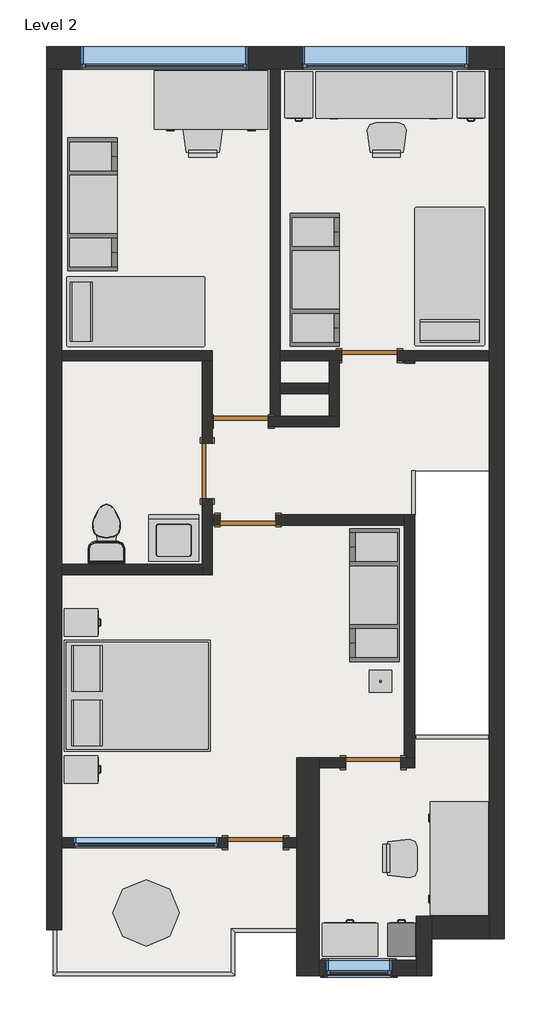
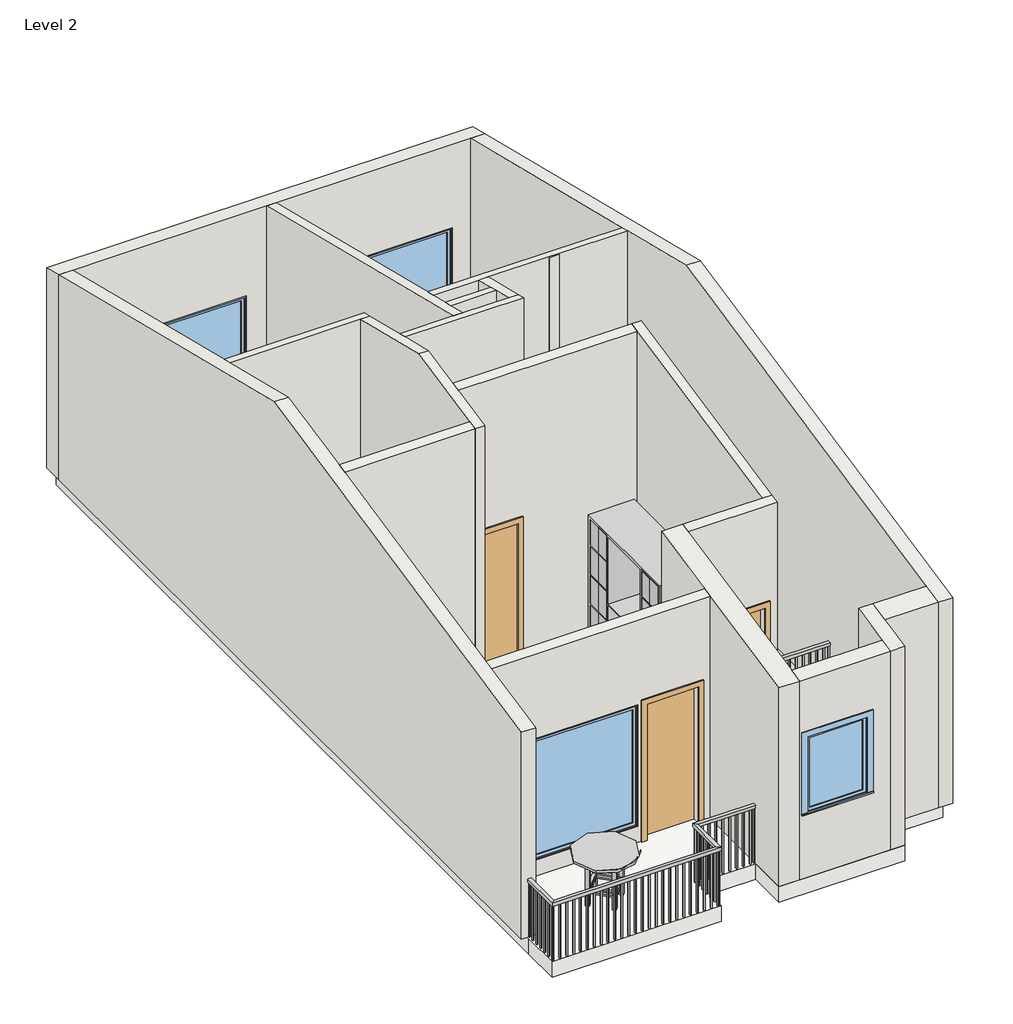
# One storey, incomplete: 20 walls, 19 furniture elements, 6 doors, 4 windows, 3 railings, 3 slabs, 1 flow terminal, 1 light fixture, 1 proxy.
"""IFC4 building model written with IfcOpenShell, lengths in millimetres."""

from ifc_helpers import new_model, si_unit, frame, origin, place, context, project, spatial, polyline, outline, extrude, faceted_brep, transform, mapped, element, save
from components import proxy_718fa39f, door_d876b020, door_1a0a1737, door_cd3018f3, toilet_domestic_3d_toilet_domestic_3d_f7549cf7, toilet_domestic_3d_toilet_domestic_3d_183bbd19, furniture_fb3a1094, furniture_a07fae8b, furniture_bb55ed6b, furniture_d2095e5a, furniture_91e73996, furniture_d4d3357e, chair_desk_chair_desk_ccc35c8f, furniture_7b927048, furniture_013ab306, furniture_cf0b6580, furniture_f004630c, light_fixture_100w_120v_8564026f, handrail_rectangular_d451aaf2, handrail_rectangular_334663b3, handrail_rectangular_6fb7977d, window_4fdf5a1b, fixed_d05abae4, window_746a537f

model = new_model("IFC4")

# Units and contexts
model_context = context("Model", 3, world=origin())
ifc_project = project(units=[si_unit("LENGTHUNIT", "METRE", prefix="MILLI")], contexts=[model_context])

# Site, building, storey
site = spatial("IfcSite", under=ifc_project)
building = spatial("IfcBuilding", under=site)
storey = spatial("IfcBuildingStorey", under=building, Name="Level 2", Elevation=3000.0)

# Proxy
placement = place(None, origin())
proxy_shape = proxy_718fa39f(model_context)
element("IfcBuildingElementProxy", 1, Name="Washer : 27\" x 25\" x 35\"", ObjectType="Washer : 27\" x 25\" x 35\"", at=placement, inside=storey, context=model_context, shape_type="MappedRepresentation", body=[
    mapped(proxy_shape, transform((-14962.6615685, 8412.0298259, 3000.0), x_axis=(1.0, 0.0, 0.0), y_axis=(0.0, 1.0, 0.0), z_axis=(0.0, 0.0, 1.0))),
])

# Doors
door_shape = door_d876b020(model_context)
element("IfcDoor", 2, ObjectType="Single-Flush : 30\" x 80\"", at=placement, inside=storey, context=model_context, shape_type="MappedRepresentation", body=[
    mapped(door_shape, transform((-13618.9909741, 10293.5806053, 3000.0), x_axis=(1.0, 0.0, 0.0), y_axis=(0.0, 1.0, 0.0), z_axis=(0.0, 0.0, 1.0))),
])
element("IfcDoor", 3, ObjectType="Single-Flush : 30\" x 80\"", at=placement, inside=storey, context=model_context, shape_type="MappedRepresentation", body=[
    mapped(door_shape, transform((-13521.4909741, 8938.6793907, 3000.0), x_axis=(-1.0, 0.0, 0.0), y_axis=(0.0, -1.0, 0.0), z_axis=(0.0, 0.0, 1.0))),
])
door_2_shape = door_1a0a1737(model_context)
element("IfcDoor", 4, ObjectType="Single-Flush : 30\" x 80\"", at=placement, inside=storey, context=model_context, shape_type="MappedRepresentation", body=[
    mapped(door_2_shape, transform((-11848.9909741, 11198.6793907, 3000.0), x_axis=(-1.0, 0.0, 0.0), y_axis=(0.0, -1.0, 0.0), z_axis=(0.0, 0.0, 1.0))),
])
element("IfcDoor", 5, ObjectType="Single-Flush : 30\" x 80\"", at=placement, inside=storey, context=model_context, shape_type="MappedRepresentation", body=[
    mapped(door_2_shape, transform((-14081.4909741, 9611.129998, 3000.0), x_axis=(0.0, -1.0, 0.0), y_axis=(1.0, 0.0, 0.0), z_axis=(0.0, 0.0, 1.0))),
])
door_3_shape = door_cd3018f3(model_context)
element("IfcDoor", 6, ObjectType="Single-Flush : 30\" x 84\"", at=placement, inside=storey, context=model_context, shape_type="MappedRepresentation", body=[
    mapped(door_3_shape, transform((-11796.4909741, 5598.6793907, 3000.0), x_axis=(1.0, 0.0, 0.0), y_axis=(0.0, 1.0, 0.0), z_axis=(0.0, 0.0, 1.0))),
])
element("IfcDoor", 7, ObjectType="Single-Flush : 30\" x 84\"", at=placement, inside=storey, context=model_context, shape_type="MappedRepresentation", body=[
    mapped(door_3_shape, transform((-13414.8909741, 4498.6793907, 3000.0), x_axis=(1.0, 0.0, 0.0), y_axis=(0.0, 1.0, 0.0), z_axis=(0.0, 0.0, 1.0))),
])

# Flow terminal
toilet_domestic_3d_toilet_domestic_3d_shape = toilet_domestic_3d_toilet_domestic_3d_f7549cf7(model_context)
toilet_domestic_3d_toilet_domestic_3d_2_shape = toilet_domestic_3d_toilet_domestic_3d_183bbd19(model_context)
element("IfcFlowTerminal", 8, ObjectType="Toilet-Domestic-3D : Toilet-Domestic-3D", at=placement, inside=storey, context=model_context, shape_type="MappedRepresentation", body=[
    mapped(toilet_domestic_3d_toilet_domestic_3d_shape, transform((-15466.4909741, 8848.6793907, 3000.0), x_axis=(-1.0, 0.0, 0.0), y_axis=(0.0, -1.0, 0.0), z_axis=(0.0, 0.0, 1.0))),
    mapped(toilet_domestic_3d_toilet_domestic_3d_2_shape, transform((-15466.4909741, 8848.6793907, 3000.0), x_axis=(-1.0, 0.0, 0.0), y_axis=(0.0, -1.0, 0.0), z_axis=(0.0, 0.0, 1.0))),
])

# Furniture
furniture_shape = furniture_fb3a1094(model_context)
element("IfcFurniture", 9, ObjectType="Bed-Box : Queen 60\" x 79\"", at=placement, inside=storey, context=model_context, shape_type="MappedRepresentation", body=[
    mapped(furniture_shape, transform((-15277.6204823, 6182.5269316, 3000.0), x_axis=(0.0, 1.0, 0.0), y_axis=(-1.0, 0.0, 0.0), z_axis=(0.0, 0.0, 1.0))),
])
furniture_2_shape = furniture_a07fae8b(model_context)
element("IfcFurniture", 10, ObjectType="Bed-Standard : Twin 38\" x 75\"", at=placement, inside=storey, context=model_context, shape_type="MappedRepresentation", body=[
    mapped(furniture_2_shape, transform((-15109.5860561, 11534.5908661, 3000.0), x_axis=(0.0, 1.0, 0.0), y_axis=(-1.0, 0.0, 0.0), z_axis=(0.0, 0.0, 1.0))),
])
element("IfcFurniture", 11, ObjectType="Bed-Standard : Twin 38\" x 75\"", at=placement, inside=storey, context=model_context, shape_type="MappedRepresentation", body=[
    mapped(furniture_2_shape, transform((-10472.4024495, 12243.0843087, 3000.0), x_axis=(-1.0, 0.0, 0.0), y_axis=(0.0, -1.0, 0.0), z_axis=(0.0, 0.0, 1.0))),
])
furniture_3_shape = furniture_bb55ed6b(model_context)
element("IfcFurniture", 12, ObjectType="Cabinet-File 2 Drawer : 15\" x 18\"", at=placement, inside=storey, context=model_context, shape_type="MappedRepresentation", body=[
    mapped(furniture_3_shape, transform((-15960.0252743, 7656.0758377, 3000.0), x_axis=(0.0, 1.0, 0.0), y_axis=(-1.0, 0.0, 0.0), z_axis=(0.0, 0.0, 1.0))),
])
element("IfcFurniture", 13, ObjectType="Cabinet-File 2 Drawer : 15\" x 18\"", at=placement, inside=storey, context=model_context, shape_type="MappedRepresentation", body=[
    mapped(furniture_3_shape, transform((-15960.0252743, 5636.0758377, 3000.0), x_axis=(0.0, 1.0, 0.0), y_axis=(-1.0, 0.0, 0.0), z_axis=(0.0, 0.0, 1.0))),
])
furniture_4_shape = furniture_d2095e5a(model_context)
element("IfcFurniture", 14, ObjectType="Cabinet-File 3 Drawer : 15\" x 25\"", at=placement, inside=storey, context=model_context, shape_type="MappedRepresentation", body=[
    mapped(furniture_4_shape, transform((-12694.0945271, 14933.3136908, 3000.0), x_axis=(1.0, 0.0, 0.0), y_axis=(0.0, 1.0, 0.0), z_axis=(0.0, 0.0, 1.0))),
])
element("IfcFurniture", 15, ObjectType="Cabinet-File 3 Drawer : 15\" x 25\"", at=placement, inside=storey, context=model_context, shape_type="MappedRepresentation", body=[
    mapped(furniture_4_shape, transform((-10324.0945271, 14933.3136908, 3000.0), x_axis=(1.0, 0.0, 0.0), y_axis=(0.0, 1.0, 0.0), z_axis=(0.0, 0.0, 1.0))),
])
furniture_5_shape = furniture_91e73996(model_context)
element("IfcFurniture", 16, ObjectType="Cabinet-File 3 Drawer : 30\" x 18\" Lat.", at=placement, inside=storey, context=model_context, shape_type="MappedRepresentation", body=[
    mapped(furniture_5_shape, transform((-12243.5977977, 3021.4054857, 3000.0), x_axis=(-1.0, 0.0, 0.0), y_axis=(0.0, -1.0, 0.0), z_axis=(0.0, 0.0, 1.0))),
])
furniture_6_shape = furniture_d4d3357e(model_context)
element("IfcFurniture", 17, ObjectType="Cabinet-File 5 Drawer : 15\" x 18\"", at=placement, inside=storey, context=model_context, shape_type="MappedRepresentation", body=[
    mapped(furniture_6_shape, transform((-11534.8233501, 3021.4054857, 3000.0), x_axis=(-1.0000000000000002, 0.0, 0.0), y_axis=(0.0, -1.0000000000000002, 0.0), z_axis=(0.0, 0.0, 1.0))),
])
chair_desk_chair_desk_shape = chair_desk_chair_desk_ccc35c8f(model_context)
element("IfcFurniture", 18, ObjectType="Chair-Desk : Chair-Desk", at=placement, inside=storey, context=model_context, shape_type="MappedRepresentation", body=[
    mapped(chair_desk_chair_desk_shape, transform((-11596.4909741, 4281.6793907, 3000.0), x_axis=(0.0, -1.0, 0.0), y_axis=(1.0, 0.0, 0.0), z_axis=(0.0, 0.0, 1.0))),
])
element("IfcFurniture", 19, ObjectType="Chair-Desk : Chair-Desk", at=placement, inside=storey, context=model_context, shape_type="MappedRepresentation", body=[
    mapped(chair_desk_chair_desk_shape, transform((-14140.8909741, 13998.6793907, 3000.0), x_axis=(1.0, 0.0, 0.0), y_axis=(0.0, 1.0, 0.0), z_axis=(0.0, 0.0, 1.0))),
])
element("IfcFurniture", 20, ObjectType="Chair-Desk : Chair-Desk", at=placement, inside=storey, context=model_context, shape_type="MappedRepresentation", body=[
    mapped(chair_desk_chair_desk_shape, transform((-11610.8909741, 13998.6793907, 3000.0), x_axis=(1.0, 0.0, 0.0), y_axis=(0.0, 1.0, 0.0), z_axis=(0.0, 0.0, 1.0))),
])
furniture_7_shape = furniture_7b927048(model_context)
element("IfcFurniture", 21, ObjectType="Credenza : 72\" x 24\"", at=placement, inside=storey, context=model_context, shape_type="MappedRepresentation", body=[
    mapped(furniture_7_shape, transform((-11710.4352364, 14794.2990628, 3000.0), x_axis=(1.0, 0.0, 0.0), y_axis=(0.0, 1.0, 0.0), z_axis=(0.0, 0.0, 1.0))),
])
furniture_8_shape = furniture_013ab306(model_context)
element("IfcFurniture", 22, ObjectType="Desk : 60\" x 30\"", at=placement, inside=storey, context=model_context, shape_type="MappedRepresentation", body=[
    mapped(furniture_8_shape, transform((-10991.4909741, 5043.6793907, 3000.0), x_axis=(0.0, -1.0000000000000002, 0.0), y_axis=(1.0000000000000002, 0.0, 0.0), z_axis=(0.0, 0.0, 1.0))),
])
element("IfcFurniture", 23, ObjectType="Desk : 60\" x 30\" Student", at=placement, inside=storey, context=model_context, shape_type="MappedRepresentation", body=[
    mapped(furniture_8_shape, transform((-14790.4909741, 14336.6793907, 3000.0), x_axis=(1.0, 0.0, 0.0), y_axis=(0.0, 1.0, 0.0), z_axis=(0.0, 0.0, 1.0))),
])
furniture_9_shape = furniture_cf0b6580(model_context)
element("IfcFurniture", 24, ObjectType="Entertainment Center : 72\" x 72\" x 24\"", at=placement, inside=storey, context=model_context, shape_type="MappedRepresentation", body=[
    mapped(furniture_9_shape, transform((-11335.2909741, 7904.2793907, 3000.0), x_axis=(0.0, -1.0, 0.0), y_axis=(1.0, 0.0, 0.0), z_axis=(0.0, 0.0, 1.0))),
])
element("IfcFurniture", 25, ObjectType="Entertainment Center : 72\" x 72\" x 24\"", at=placement, inside=storey, context=model_context, shape_type="MappedRepresentation", body=[
    mapped(furniture_9_shape, transform((-16103.0909741, 13283.0793907, 3000.0), x_axis=(0.0, 1.0, 0.0), y_axis=(-1.0, 0.0, 0.0), z_axis=(0.0, 0.0, 1.0))),
])
element("IfcFurniture", 26, ObjectType="Entertainment Center : 72\" x 72\" x 24\"", at=placement, inside=storey, context=model_context, shape_type="MappedRepresentation", body=[
    mapped(furniture_9_shape, transform((-13042.6909741, 12244.4996075, 3000.0), x_axis=(0.0, 1.0, 0.0), y_axis=(-1.0, 0.0, 0.0), z_axis=(0.0, 0.0, 1.0))),
])
furniture_10_shape = furniture_f004630c(model_context)
element("IfcFurniture", 27, ObjectType="Table-Dining Round w Chairs : 36\" Diameter", at=placement, inside=storey, context=model_context, shape_type="MappedRepresentation", body=[
    mapped(furniture_10_shape, transform((-14864.5863785, 3738.1990574, 3000.0), x_axis=(0.7069374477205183, -0.7072760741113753, 0.0), y_axis=(0.7072760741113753, 0.7069374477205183, 0.0), z_axis=(0.0, 0.0, 1.0))),
])

# Light fixture
light_fixture_100w_120v_shape = light_fixture_100w_120v_8564026f(model_context)
element("IfcLightFixture", 28, ObjectType="Floor Lamp - Standup : 100W - 120V", at=placement, inside=storey, context=model_context, shape_type="MappedRepresentation", body=[
    mapped(light_fixture_100w_120v_shape, transform((-11696.4909741, 6718.6793907, 3000.0), x_axis=(1.0, 0.0, 0.0), y_axis=(0.0, 1.0, 0.0), z_axis=(0.0, 0.0, 1.0))),
])

# Railings
handrail_rectangular_shape = handrail_rectangular_d451aaf2(model_context)
element("IfcRailing", 29, ObjectType="Handrail - Rectangular", at=placement, inside=storey, context=model_context, shape_type="MappedRepresentation", body=[
    mapped(handrail_rectangular_shape, transform((0.0, 0.0, 0.0), x_axis=(1.0, 0.0, 0.0), y_axis=(0.0, 1.0, 0.0), z_axis=(0.0, 0.0, 1.0))),
])
handrail_rectangular_2_shape = handrail_rectangular_334663b3(model_context)
element("IfcRailing", 30, ObjectType="Handrail - Rectangular", at=placement, inside=storey, context=model_context, shape_type="MappedRepresentation", body=[
    mapped(handrail_rectangular_2_shape, transform((0.0, 0.0, 0.0), x_axis=(1.0, 0.0, 0.0), y_axis=(0.0, 1.0, 0.0), z_axis=(0.0, 0.0, 1.0))),
])
handrail_rectangular_3_shape = handrail_rectangular_6fb7977d(model_context)
element("IfcRailing", 31, ObjectType="Handrail - Rectangular", at=placement, inside=storey, context=model_context, shape_type="MappedRepresentation", body=[
    mapped(handrail_rectangular_3_shape, transform((0.0, 0.0, 0.0), x_axis=(1.0, 0.0, 0.0), y_axis=(0.0, 1.0, 0.0), z_axis=(0.0, 0.0, 1.0))),
])

# Slabs
element("IfcSlab", 32, ObjectType="döşeme", at=placement, inside=storey, context=model_context, shape_type="SweptSolid", body=[
    extrude(outline(polyline([(-10081.4909741, 15363.6793907), (-10081.4909741, 3265.2793907), (-10991.4909741, 3265.2793907), (-10991.4909741, 2670.2793907), (-12849.8909741, 2670.2793907), (-12849.8909741, 3265.2793907), (-13701.4909741, 3265.2793907), (-13701.4909741, 2665.2793907), (-16201.4909741, 2665.2793907), (-16201.4909741, 3265.2793907), (-16201.4909741, 15363.6793907), (-10081.4909741, 15363.6793907)]), holes=[polyline([(-10201.4909741, 9608.9265679), (-11217.4909741, 9608.9265679), (-11217.4909741, 5976.7265679), (-10201.4909741, 5976.7265679), (-10201.4909741, 9608.9265679)]), polyline([(-12401.4909741, 11128.6793907), (-13076.4909741, 11128.6793907), (-13076.4909741, 10818.6793907), (-12401.4909741, 10818.6793907), (-12401.4909741, 11128.6793907)]), polyline([(-12396.4909741, 10678.6793907), (-13076.4909741, 10678.6793907), (-13076.4909741, 10368.6793907), (-12396.4909741, 10368.6793907), (-12396.4909741, 10678.6793907)])]), frame((0.0, 0.0, 2758.0), z_axis=(0.0, 0.0, 1.0), x_axis=(1.0, 0.0, 0.0)), (0.0, 0.0, 1.0), 242.0),
])
element("IfcSlab", 33, ObjectType="Generic - 12\"", at=placement, inside=storey, context=model_context, shape_type="SweptSolid", body=[
    extrude(outline(polyline([(-12401.4909741, 11128.6793907), (-12401.4909741, 10818.6793907), (-13076.4909741, 10818.6793907), (-13076.4909741, 11128.6793907), (-12401.4909741, 11128.6793907)])), frame((0.0, 0.0, 2695.2), z_axis=(0.0, 0.0, 1.0), x_axis=(1.0, 0.0, 0.0)), (0.0, 0.0, 1.0), 304.8),
    extrude(outline(polyline([(-12396.4909741, 10678.6793907), (-12396.4909741, 10368.6793907), (-13076.4909741, 10368.6793907), (-13076.4909741, 10678.6793907), (-12396.4909741, 10678.6793907)])), frame((0.0, 0.0, 2695.2), z_axis=(0.0, 0.0, 1.0), x_axis=(1.0, 0.0, 0.0)), (0.0, 0.0, 1.0), 304.8),
])
element("IfcSlab", 34, ObjectType="Generic - 12\"", at=placement, inside=storey, context=model_context, shape_type="SweptSolid", body=[
    extrude(outline(polyline([(-12396.4909741, 11128.6793907), (-12396.4909741, 10818.6793907), (-13076.4909741, 10818.6793907), (-13076.4909741, 11128.6793907), (-12396.4909741, 11128.6793907)])), frame((0.0, 0.0, 2695.2), z_axis=(0.0, 0.0, 1.0), x_axis=(1.0, 0.0, 0.0)), (0.0, 0.0, 1.0), 304.8),
])

# Walls
element("IfcWall", 35, ObjectType="içduvar", at=placement, inside=storey, context=model_context, shape_type="Brep", body=[
    faceted_brep([(-13902.4909741, 9008.6793907, 5032.0), (-13902.4909741, 9008.6793907, 3000.0), (-14011.4909741, 9008.6793907, 3000.0), (-14011.4909741, 9008.6793907, 7431.8792247), (-11366.4909741, 9008.6793907, 7431.8792247), (-11366.4909741, 9008.6793907, 3000.0), (-13140.4909741, 9008.6793907, 3000.0), (-13140.4909741, 9008.6793907, 5032.0), (-14011.4909741, 8868.6793907, 3000.0), (-13902.4909741, 8868.6793907, 3000.0), (-13902.4909741, 8868.6793907, 5032.0), (-13140.4909741, 8868.6793907, 5032.0), (-13140.4909741, 8868.6793907, 3000.0), (-11366.4909741, 8868.6793907, 3000.0), (-11366.4909741, 8868.6793907, 7402.564898), (-14011.4909741, 8868.6793907, 7402.564898)], [[[0, 1, 2, 3, 4, 5, 6, 7]], [[8, 9, 10, 11, 12, 13, 14, 15]], [[2, 1, 9, 8]], [[6, 5, 13, 12]], [[3, 2, 8, 15]], [[5, 4, 14, 13]], [[4, 3, 15, 14]], [[10, 9, 1, 0]], [[11, 10, 0, 7]], [[12, 11, 7, 6]]]),
])
element("IfcWall", 36, ObjectType="içduvar", at=placement, inside=storey, context=model_context, shape_type="SweptSolid", body=[
    extrude(outline(polyline([(8188.6793907, 3000.0), (8188.6793907, 7260.1810256), (8328.6793907, 7289.4953523), (8328.6793907, 3000.0), (8188.6793907, 3000.0)])), frame((-16081.4909741, 0.0, 0.0), z_axis=(1.0, 0.0, 0.0), x_axis=(0.0, 1.0, 0.0)), (0.0, 0.0, 1.0), 1930.0),
])
element("IfcWall", 37, ObjectType="dışduvarlar", at=placement, inside=storey, context=model_context, shape_type="Brep", body=[
    faceted_brep([(-16291.4909741, 15143.6793907, 3000.0), (-16081.4909741, 15143.6793907, 3000.0), (-13216.4909741, 15143.6793907, 3000.0), (-13076.4909741, 15143.6793907, 3000.0), (-10201.4909741, 15143.6793907, 3000.0), (-9991.4909741, 15143.6793907, 3000.0), (-9991.4909741, 15143.6793907, 6199.9737424), (-10201.4909741, 15143.6793907, 6199.9737424), (-13076.4909741, 15143.6793907, 6199.9737424), (-13216.4909741, 15143.6793907, 6199.9737424), (-16081.4909741, 15143.6793907, 6199.9737424), (-16291.4909741, 15143.6793907, 6199.9737424), (-12776.4909741, 15143.6793907, 3800.0), (-12776.4909741, 15143.6793907, 4900.0), (-10476.4909741, 15143.6793907, 4900.0), (-10476.4909741, 15143.6793907, 3800.0), (-15821.4909741, 15143.6793907, 3800.0), (-15821.4909741, 15143.6793907, 4900.0), (-13521.4909741, 15143.6793907, 4900.0), (-13521.4909741, 15143.6793907, 3800.0), (-9991.4909741, 15453.6793907, 3000.0), (-16291.4909741, 15453.6793907, 3000.0), (-16291.4909741, 15453.6793907, 6123.4405817), (-9991.4909741, 15453.6793907, 6123.4405817), (-12776.4909741, 15453.6793907, 4900.0), (-12776.4909741, 15453.6793907, 3800.0), (-10476.4909741, 15453.6793907, 3800.0), (-10476.4909741, 15453.6793907, 4900.0), (-15821.4909741, 15453.6793907, 4900.0), (-15821.4909741, 15453.6793907, 3800.0), (-13521.4909741, 15453.6793907, 3800.0), (-13521.4909741, 15453.6793907, 4900.0)], [[[0, 1, 2, 3, 4, 5, 6, 7, 8, 9, 10, 11], [12, 13, 14, 15], [16, 17, 18, 19]], [[20, 21, 22, 23], [24, 25, 26, 27], [28, 29, 30, 31]], [[5, 4, 3, 2, 1, 0, 21, 20]], [[6, 5, 20, 23]], [[0, 11, 22, 21]], [[11, 10, 9, 8, 7, 6, 23, 22]], [[25, 24, 13, 12]], [[26, 25, 12, 15]], [[27, 26, 15, 14]], [[24, 27, 14, 13]], [[28, 17, 16, 29]], [[29, 16, 19, 30]], [[30, 19, 18, 31]], [[17, 28, 31, 18]]]),
])
element("IfcWall", 38, ObjectType="dışduvarlar 2", at=placement, inside=storey, context=model_context, shape_type="Brep", body=[
    faceted_brep([(-10201.4909741, 15143.6793907, 3000.0), (-10201.4909741, 11268.6793907, 3000.0), (-10201.4909741, 11128.6793907, 3000.0), (-10201.4909741, 3485.2793907, 3000.0), (-10201.4909741, 3175.2793907, 3000.0), (-10201.4909741, 3175.2793907, 6210.4349878), (-10201.4909741, 3485.2793907, 6275.3452826), (-10201.4909741, 9628.2926549, 7561.6188363), (-10201.4909741, 11128.6793907, 7191.2016134), (-10201.4909741, 11268.6793907, 7156.6382506), (-10201.4909741, 15143.6793907, 6199.9737424), (-9991.4909741, 15143.6793907, 3000.0), (-9991.4909741, 15143.6793907, 6199.9737424), (-9991.4909741, 9628.2926549, 7561.6188363), (-9991.4909741, 3175.2793907, 6210.4349878), (-9991.4909741, 3175.2793907, 3000.0)], [[[0, 1, 2, 3, 4, 5, 6, 7, 8, 9, 10]], [[11, 12, 13, 14, 15]], [[4, 3, 2, 1, 0, 11, 15]], [[0, 10, 12, 11]], [[5, 4, 15, 14]], [[10, 9, 8, 7, 13, 12]], [[7, 6, 5, 14, 13]]]),
])
element("IfcWall", 39, ObjectType="dışduvarlar", at=placement, inside=storey, context=model_context, shape_type="SweptSolid", body=[
    extrude(outline(polyline([(3485.2793907, 6275.3452826), (3485.2793907, 3000.0), (3175.2793907, 3000.0), (3175.2793907, 6210.4349878), (3485.2793907, 6275.3452826)])), frame((-10991.4909741, 0.0, 0.0), z_axis=(1.0, 0.0, 0.0), x_axis=(0.0, 1.0, 0.0)), (0.0, 0.0, 1.0), 790.0),
])
element("IfcWall", 40, ObjectType="dışduvarlar 2", at=placement, inside=storey, context=model_context, shape_type="Brep", body=[
    faceted_brep([(-16081.4909741, 3298.6793907, 3000.0), (-16081.4909741, 4428.6793907, 3000.0), (-16081.4909741, 4568.6793907, 3000.0), (-16081.4909741, 8188.6793907, 3000.0), (-16081.4909741, 8328.6793907, 3000.0), (-16081.4909741, 11128.6793907, 3000.0), (-16081.4909741, 11268.6793907, 3000.0), (-16081.4909741, 15143.6793907, 3000.0), (-16081.4909741, 15143.6793907, 6199.9737424), (-16081.4909741, 11268.6793907, 7156.6382506), (-16081.4909741, 11128.6793907, 7191.2016134), (-16081.4909741, 9628.2926549, 7561.6188363), (-16081.4909741, 8328.6793907, 7289.4953523), (-16081.4909741, 8188.6793907, 7260.1810256), (-16081.4909741, 4568.6793907, 6502.1962933), (-16081.4909741, 4428.6793907, 6472.8819667), (-16081.4909741, 3298.6793907, 6236.2734729), (-16291.4909741, 3298.6793907, 3000.0), (-16291.4909741, 3298.6793907, 6236.2734729), (-16291.4909741, 9628.2926549, 7561.6188363), (-16291.4909741, 15143.6793907, 6199.9737424), (-16291.4909741, 15143.6793907, 3000.0)], [[[0, 1, 2, 3, 4, 5, 6, 7, 8, 9, 10, 11, 12, 13, 14, 15, 16]], [[17, 18, 19, 20, 21]], [[7, 6, 5, 4, 3, 2, 1, 0, 17, 21]], [[0, 16, 18, 17]], [[8, 7, 21, 20]], [[16, 15, 14, 13, 12, 11, 19, 18]], [[11, 10, 9, 8, 20, 19]]]),
])
element("IfcWall", 41, ObjectType="içduvar", at=placement, inside=storey, context=model_context, shape_type="Brep", body=[
    faceted_brep([(-16081.4909741, 4428.6793907, 6472.8819667), (-16081.4909741, 4428.6793907, 3000.0), (-13795.8909741, 4428.6793907, 3000.0), (-13795.8909741, 4428.6793907, 5133.6), (-13033.8909741, 4428.6793907, 5133.6), (-13033.8909741, 4428.6793907, 3000.0), (-12849.8909741, 4428.6793907, 3000.0), (-12849.8909741, 4428.6793907, 6472.8819667), (-15920.6909741, 4428.6793907, 3250.0), (-15920.6909741, 4428.6793907, 5150.0), (-13920.6909741, 4428.6793907, 5150.0), (-13920.6909741, 4428.6793907, 3250.0), (-16081.4909741, 4568.6793907, 3000.0), (-16081.4909741, 4568.6793907, 6502.1962933), (-12849.8909741, 4568.6793907, 6502.1962933), (-12849.8909741, 4568.6793907, 3000.0), (-13033.8909741, 4568.6793907, 3000.0), (-13033.8909741, 4568.6793907, 5133.6), (-13795.8909741, 4568.6793907, 5133.6), (-13795.8909741, 4568.6793907, 3000.0), (-15920.6909741, 4568.6793907, 5150.0), (-15920.6909741, 4568.6793907, 3250.0), (-13920.6909741, 4568.6793907, 3250.0), (-13920.6909741, 4568.6793907, 5150.0)], [[[0, 1, 2, 3, 4, 5, 6, 7], [8, 9, 10, 11]], [[12, 13, 14, 15, 16, 17, 18, 19], [20, 21, 22, 23]], [[1, 12, 19, 2]], [[15, 6, 5, 16]], [[1, 0, 13, 12]], [[7, 6, 15, 14]], [[0, 7, 14, 13]], [[4, 17, 16, 5]], [[17, 4, 3, 18]], [[18, 3, 2, 19]], [[20, 9, 8, 21]], [[21, 8, 11, 22]], [[22, 11, 10, 23]], [[9, 20, 23, 10]]]),
])
element("IfcWall", 42, ObjectType="dışduvarlar", at=placement, inside=storey, context=model_context, shape_type="Brep", body=[
    faceted_brep([(-12539.8909741, 2670.2793907, 3000.0), (-12539.8909741, 2880.2793907, 3000.0), (-12539.8909741, 5528.6793907, 3000.0), (-12539.8909741, 5668.6793907, 3000.0), (-12539.8909741, 5668.6793907, 6732.5231457), (-12539.8909741, 5528.6793907, 6703.208819), (-12539.8909741, 2880.2793907, 6148.6655138), (-12539.8909741, 2670.2793907, 6104.6940238), (-12849.8909741, 2670.2793907, 3000.0), (-12849.8909741, 2670.2793907, 6104.6940238), (-12849.8909741, 4428.6793907, 6472.8819667), (-12849.8909741, 4568.6793907, 6502.1962933), (-12849.8909741, 5668.6793907, 6732.5231457), (-12849.8909741, 5668.6793907, 3000.0), (-12849.8909741, 4568.6793907, 3000.0), (-12849.8909741, 4428.6793907, 3000.0)], [[[0, 1, 2, 3, 4, 5, 6, 7]], [[8, 9, 10, 11, 12, 13, 14, 15]], [[3, 2, 1, 0, 8, 15, 14, 13]], [[4, 3, 13, 12]], [[0, 7, 9, 8]], [[7, 6, 5, 4, 12, 11, 10, 9]]]),
])
element("IfcWall", 43, ObjectType="içduvar", at=placement, inside=storey, context=model_context, shape_type="Brep", body=[
    faceted_brep([(-11415.4909741, 5528.6793907, 5133.6), (-11415.4909741, 5528.6793907, 3000.0), (-11226.4909741, 5528.6793907, 3000.0), (-11226.4909741, 5528.6793907, 6703.208819), (-12539.8909741, 5528.6793907, 6703.208819), (-12539.8909741, 5528.6793907, 3000.0), (-12177.4909741, 5528.6793907, 3000.0), (-12177.4909741, 5528.6793907, 5133.6), (-11226.4909741, 5668.6793907, 3000.0), (-11366.4909741, 5668.6793907, 3000.0), (-11415.4909741, 5668.6793907, 3000.0), (-11415.4909741, 5668.6793907, 5133.6), (-12177.4909741, 5668.6793907, 5133.6), (-12177.4909741, 5668.6793907, 3000.0), (-12539.8909741, 5668.6793907, 3000.0), (-12539.8909741, 5668.6793907, 6732.5231457), (-11366.4909741, 5668.6793907, 6732.5231457), (-11226.4909741, 5668.6793907, 6732.5231457)], [[[0, 1, 2, 3, 4, 5, 6, 7]], [[8, 9, 10, 11, 12, 13, 14, 15, 16, 17]], [[2, 1, 10, 9, 8]], [[6, 5, 14, 13]], [[5, 4, 15, 14]], [[3, 2, 8, 17]], [[4, 3, 17, 16, 15]], [[11, 10, 1, 0]], [[12, 11, 0, 7]], [[13, 12, 7, 6]]]),
])
element("IfcWall", 44, ObjectType="içduvar", at=placement, inside=storey, context=model_context, shape_type="SweptSolid", body=[
    extrude(outline(polyline([(11128.6793907, 3000.0), (11098.6793907, 3000.0), (11098.6793907, 7198.6080484), (11128.6793907, 7191.2016134), (11128.6793907, 3000.0)])), frame((-11366.4909741, 0.0, 0.0), z_axis=(1.0, 0.0, 0.0), x_axis=(0.0, 1.0, 0.0)), (0.0, 0.0, 1.0), 140.0),
])
element("IfcWall", 45, ObjectType="içduvar", at=placement, inside=storey, context=model_context, shape_type="Brep", body=[
    faceted_brep([(-13076.4909741, 10363.5806053, 3000.0), (-13076.4909741, 10678.6793907, 3000.0), (-13076.4909741, 10818.6793907, 3000.0), (-13076.4909741, 11128.6793907, 3000.0), (-13076.4909741, 11268.6793907, 3000.0), (-13076.4909741, 15143.6793907, 3000.0), (-13076.4909741, 15143.6793907, 6199.9737424), (-13076.4909741, 11268.6793907, 7156.6382506), (-13076.4909741, 11128.6793907, 7191.2016134), (-13076.4909741, 10818.6793907, 7267.7347741), (-13076.4909741, 10678.6793907, 7302.298137), (-13076.4909741, 10363.5806053, 7380.0900917), (-13216.4909741, 10363.5806053, 3000.0), (-13216.4909741, 10363.5806053, 7380.0900917), (-13216.4909741, 15143.6793907, 6199.9737424), (-13216.4909741, 15143.6793907, 3000.0)], [[[0, 1, 2, 3, 4, 5, 6, 7, 8, 9, 10, 11]], [[12, 13, 14, 15]], [[5, 4, 3, 2, 1, 0, 12, 15]], [[6, 5, 15, 14]], [[0, 11, 13, 12]], [[11, 10, 9, 8, 7, 6, 14, 13]]]),
])
element("IfcWall", 46, ObjectType="içduvar", at=placement, inside=storey, context=model_context, shape_type="Brep", body=[
    faceted_brep([(-16081.4909741, 11128.6793907, 3000.0), (-14151.4909741, 11128.6793907, 3000.0), (-14011.4909741, 11128.6793907, 3000.0), (-14011.4909741, 11128.6793907, 7191.2016134), (-14151.4909741, 11128.6793907, 7191.2016134), (-16081.4909741, 11128.6793907, 7191.2016134), (-16081.4909741, 11268.6793907, 3000.0), (-16081.4909741, 11268.6793907, 7156.6382506), (-14011.4909741, 11268.6793907, 7156.6382506), (-14011.4909741, 11268.6793907, 3000.0)], [[[0, 1, 2, 3, 4, 5]], [[6, 7, 8, 9]], [[2, 1, 0, 6, 9]], [[0, 5, 7, 6]], [[3, 2, 9, 8]], [[5, 4, 3, 8, 7]]]),
])
element("IfcWall", 47, ObjectType="içduvar", at=placement, inside=storey, context=model_context, shape_type="Brep", body=[
    faceted_brep([(-14151.4909741, 9230.129998, 5032.0), (-14151.4909741, 9230.129998, 3000.0), (-14151.4909741, 8328.6793907, 3000.0), (-14151.4909741, 8188.6793907, 3000.0), (-14151.4909741, 8188.6793907, 7260.1810256), (-14151.4909741, 8328.6793907, 7289.4953523), (-14151.4909741, 9628.2926549, 7561.6188363), (-14151.4909741, 11128.6793907, 7191.2016134), (-14151.4909741, 11128.6793907, 3000.0), (-14151.4909741, 9992.129998, 3000.0), (-14151.4909741, 9992.129998, 5032.0), (-14011.4909741, 8188.6793907, 3000.0), (-14011.4909741, 8868.6793907, 3000.0), (-14011.4909741, 9008.6793907, 3000.0), (-14011.4909741, 9230.129998, 3000.0), (-14011.4909741, 9230.129998, 5032.0), (-14011.4909741, 9992.129998, 5032.0), (-14011.4909741, 9992.129998, 3000.0), (-14011.4909741, 10223.5806053, 3000.0), (-14011.4909741, 10363.5806053, 3000.0), (-14011.4909741, 11128.6793907, 3000.0), (-14011.4909741, 11128.6793907, 7191.2016134), (-14011.4909741, 10363.5806053, 7380.0900917), (-14011.4909741, 10223.5806053, 7414.6534546), (-14011.4909741, 9628.2926549, 7561.6188363), (-14011.4909741, 9008.6793907, 7431.8792247), (-14011.4909741, 8868.6793907, 7402.564898), (-14011.4909741, 8188.6793907, 7260.1810256)], [[[0, 1, 2, 3, 4, 5, 6, 7, 8, 9, 10]], [[11, 12, 13, 14, 15, 16, 17, 18, 19, 20, 21, 22, 23, 24, 25, 26, 27]], [[3, 2, 1, 14, 13, 12, 11]], [[9, 8, 20, 19, 18, 17]], [[8, 7, 21, 20]], [[4, 3, 11, 27]], [[7, 6, 24, 23, 22, 21]], [[6, 5, 4, 27, 26, 25, 24]], [[15, 14, 1, 0]], [[16, 15, 0, 10]], [[17, 16, 10, 9]]]),
])
element("IfcWall", 48, ObjectType="dışduvarlar 2", at=placement, inside=storey, context=model_context, shape_type="Brep", body=[
    faceted_brep([(-11201.4909741, 3485.2793907, 3000.0), (-11201.4909741, 2880.2793907, 3000.0), (-11201.4909741, 2670.2793907, 3000.0), (-11201.4909741, 2670.2793907, 6104.6940238), (-11201.4909741, 2880.2793907, 6148.6655138), (-11201.4909741, 3485.2793907, 6275.3452826), (-10991.4909741, 3485.2793907, 3000.0), (-10991.4909741, 3485.2793907, 6275.3452826), (-10991.4909741, 3175.2793907, 6210.4349878), (-10991.4909741, 2670.2793907, 6104.6940238), (-10991.4909741, 2670.2793907, 3000.0), (-10991.4909741, 3175.2793907, 3000.0)], [[[0, 1, 2, 3, 4, 5]], [[6, 7, 8, 9, 10, 11]], [[2, 1, 0, 6, 11, 10]], [[3, 2, 10, 9]], [[0, 5, 7, 6]], [[5, 4, 3, 9, 8, 7]]]),
])
element("IfcWall", 49, ObjectType="dışduvarlar 2", at=placement, inside=storey, context=model_context, shape_type="Brep", body=[
    faceted_brep([(-12539.8909741, 2670.2793907, 3000.0), (-11201.4909741, 2670.2793907, 3000.0), (-11201.4909741, 2670.2793907, 6104.6940238), (-12539.8909741, 2670.2793907, 6104.6940238), (-12448.6909741, 2670.2793907, 5219.2), (-11534.2909741, 2670.2793907, 5219.2), (-11534.2909741, 2670.2793907, 4000.0), (-12448.6909741, 2670.2793907, 4000.0), (-12539.8909741, 2880.2793907, 3000.0), (-12539.8909741, 2880.2793907, 6148.6655138), (-11201.4909741, 2880.2793907, 6148.6655138), (-11201.4909741, 2880.2793907, 3000.0), (-12448.6909741, 2880.2793907, 5219.2), (-12448.6909741, 2880.2793907, 4000.0), (-11534.2909741, 2880.2793907, 4000.0), (-11534.2909741, 2880.2793907, 5219.2)], [[[0, 1, 2, 3], [4, 5, 6, 7]], [[8, 9, 10, 11], [12, 13, 14, 15]], [[1, 0, 8, 11]], [[2, 1, 11, 10]], [[0, 3, 9, 8]], [[3, 2, 10, 9]], [[13, 12, 4, 7]], [[14, 13, 7, 6]], [[15, 14, 6, 5]], [[12, 15, 5, 4]]]),
])
element("IfcWall", 50, ObjectType="içduvar", at=placement, inside=storey, context=model_context, shape_type="Brep", body=[
    faceted_brep([(-13237.9909741, 10223.5806053, 5032.0), (-13237.9909741, 10223.5806053, 3000.0), (-12261.4909741, 10223.5806053, 3000.0), (-12261.4909741, 10223.5806053, 7414.6534546), (-14011.4909741, 10223.5806053, 7414.6534546), (-14011.4909741, 10223.5806053, 3000.0), (-13999.9909741, 10223.5806053, 3000.0), (-13999.9909741, 10223.5806053, 5032.0), (-12261.4909741, 10363.5806053, 3000.0), (-12401.4909741, 10363.5806053, 3000.0), (-13076.4909741, 10363.5806053, 3000.0), (-13216.4909741, 10363.5806053, 3000.0), (-13237.9909741, 10363.5806053, 3000.0), (-13237.9909741, 10363.5806053, 5032.0), (-13999.9909741, 10363.5806053, 5032.0), (-13999.9909741, 10363.5806053, 3000.0), (-14011.4909741, 10363.5806053, 3000.0), (-14011.4909741, 10363.5806053, 7380.0900917), (-13216.4909741, 10363.5806053, 7380.0900917), (-13076.4909741, 10363.5806053, 7380.0900917), (-12401.4909741, 10363.5806053, 7380.0900917), (-12261.4909741, 10363.5806053, 7380.0900917)], [[[0, 1, 2, 3, 4, 5, 6, 7]], [[8, 9, 10, 11, 12, 13, 14, 15, 16, 17, 18, 19, 20, 21]], [[2, 1, 12, 11, 10, 9, 8]], [[6, 5, 16, 15]], [[5, 4, 17, 16]], [[3, 2, 8, 21]], [[4, 3, 21, 20, 19, 18, 17]], [[13, 12, 1, 0]], [[14, 13, 0, 7]], [[15, 14, 7, 6]]]),
])
element("IfcWall", 51, ObjectType="içduvar", at=placement, inside=storey, context=model_context, shape_type="Brep", body=[
    faceted_brep([(-13076.4909741, 11128.6793907, 3000.0), (-12401.4909741, 11128.6793907, 3000.0), (-12261.4909741, 11128.6793907, 3000.0), (-12229.9909741, 11128.6793907, 3000.0), (-12229.9909741, 11128.6793907, 5032.0), (-11467.9909741, 11128.6793907, 5032.0), (-11467.9909741, 11128.6793907, 3000.0), (-11366.4909741, 11128.6793907, 3000.0), (-11226.4909741, 11128.6793907, 3000.0), (-10201.4909741, 11128.6793907, 3000.0), (-10201.4909741, 11128.6793907, 7191.2016134), (-11226.4909741, 11128.6793907, 7191.2016134), (-11366.4909741, 11128.6793907, 7191.2016134), (-12261.4909741, 11128.6793907, 7191.2016134), (-12401.4909741, 11128.6793907, 7191.2016134), (-13076.4909741, 11128.6793907, 7191.2016134), (-12229.9909741, 11268.6793907, 5032.0), (-12229.9909741, 11268.6793907, 3000.0), (-13076.4909741, 11268.6793907, 3000.0), (-13076.4909741, 11268.6793907, 7156.6382506), (-10201.4909741, 11268.6793907, 7156.6382506), (-10201.4909741, 11268.6793907, 3000.0), (-11467.9909741, 11268.6793907, 3000.0), (-11467.9909741, 11268.6793907, 5032.0)], [[[0, 1, 2, 3, 4, 5, 6, 7, 8, 9, 10, 11, 12, 13, 14, 15]], [[16, 17, 18, 19, 20, 21, 22, 23]], [[18, 17, 3, 2, 1, 0]], [[22, 21, 9, 8, 7, 6]], [[10, 9, 21, 20]], [[0, 15, 19, 18]], [[15, 14, 13, 12, 11, 10, 20, 19]], [[4, 3, 17, 16]], [[5, 4, 16, 23]], [[6, 5, 23, 22]]]),
])
element("IfcWall", 52, ObjectType="içduvar", at=placement, inside=storey, context=model_context, shape_type="Brep", body=[
    faceted_brep([(-12261.4909741, 10363.5806053, 3000.0), (-12261.4909741, 11128.6793907, 3000.0), (-12261.4909741, 11128.6793907, 7191.2016134), (-12261.4909741, 10363.5806053, 7380.0900917), (-12401.4909741, 10363.5806053, 3000.0), (-12401.4909741, 10363.5806053, 7380.0900917), (-12401.4909741, 10678.6793907, 7302.298137), (-12401.4909741, 10818.6793907, 7267.7347741), (-12401.4909741, 11128.6793907, 7191.2016134), (-12401.4909741, 11128.6793907, 3000.0), (-12401.4909741, 10818.6793907, 3000.0), (-12401.4909741, 10678.6793907, 3000.0)], [[[0, 1, 2, 3]], [[4, 5, 6, 7, 8, 9, 10, 11]], [[1, 0, 4, 11, 10, 9]], [[0, 3, 5, 4]], [[2, 1, 9, 8]], [[3, 2, 8, 7, 6, 5]]]),
])
element("IfcWall", 53, ObjectType="içduvar", at=placement, inside=storey, context=model_context, shape_type="SweptSolid", body=[
    extrude(outline(polyline([(10678.6793907, 3000.0), (10678.6793907, 7302.298137), (10818.6793907, 7267.7347741), (10818.6793907, 3000.0), (10678.6793907, 3000.0)])), frame((-13076.4909741, 0.0, 0.0), z_axis=(1.0, 0.0, 0.0), x_axis=(0.0, 1.0, 0.0)), (0.0, 0.0, 1.0), 675.0),
])
element("IfcWall", 54, ObjectType="içduvar", at=placement, inside=storey, context=model_context, shape_type="Brep", body=[
    faceted_brep([(-11366.4909741, 9008.6793907, 3000.0), (-11366.4909741, 8868.6793907, 3000.0), (-11366.4909741, 5668.6793907, 3000.0), (-11366.4909741, 5668.6793907, 6732.5231457), (-11366.4909741, 8868.6793907, 7402.564898), (-11366.4909741, 9008.6793907, 7431.8792247), (-11226.4909741, 9008.6793907, 3000.0), (-11226.4909741, 9008.6793907, 7431.8792247), (-11226.4909741, 5668.6793907, 6732.5231457), (-11226.4909741, 5668.6793907, 3000.0)], [[[0, 1, 2, 3, 4, 5]], [[6, 7, 8, 9]], [[2, 1, 0, 6, 9]], [[3, 2, 9, 8]], [[0, 5, 7, 6]], [[5, 4, 3, 8, 7]]]),
])

# Windows
window_shape = window_4fdf5a1b(model_context)
element("IfcWindow", 55, ObjectType="Awning with Trim : 36\" x 48\"", at=placement, inside=storey, context=model_context, shape_type="MappedRepresentation", body=[
    mapped(window_shape, transform((-11991.4909741, 2775.2793907, 3085.6), x_axis=(-1.0, 0.0, 0.0), y_axis=(0.0, -1.0, 0.0), z_axis=(0.0, 0.0, 1.0))),
])
fixed_shape = fixed_d05abae4(model_context)
element("IfcWindow", 56, ObjectType="Fixed : öndeki pencere", at=placement, inside=storey, context=model_context, shape_type="MappedRepresentation", body=[
    mapped(fixed_shape, transform((-14958.7909741, 4498.6793907, 3000.0), x_axis=(-1.0, 0.0, 0.0), y_axis=(0.0, -1.0, 0.0), z_axis=(0.0, 0.0, 1.0))),
])
window_2_shape = window_746a537f(model_context)
element("IfcWindow", 57, ObjectType="Fixed : 36\" x 72\"", at=placement, inside=storey, context=model_context, shape_type="MappedRepresentation", body=[
    mapped(window_2_shape, transform((-11664.5909741, 15298.6793907, 3200.0), x_axis=(-1.0, 0.0, 0.0), y_axis=(0.0, -1.0, 0.0), z_axis=(0.0, 0.0, 1.0))),
])
element("IfcWindow", 58, ObjectType="Fixed : 36\" x 72\"", at=placement, inside=storey, context=model_context, shape_type="MappedRepresentation", body=[
    mapped(window_2_shape, transform((-14709.5909741, 15298.6793907, 3200.0), x_axis=(-1.0, 0.0, 0.0), y_axis=(0.0, -1.0, 0.0), z_axis=(0.0, 0.0, 1.0))),
])

save(model, "model.ifc")
